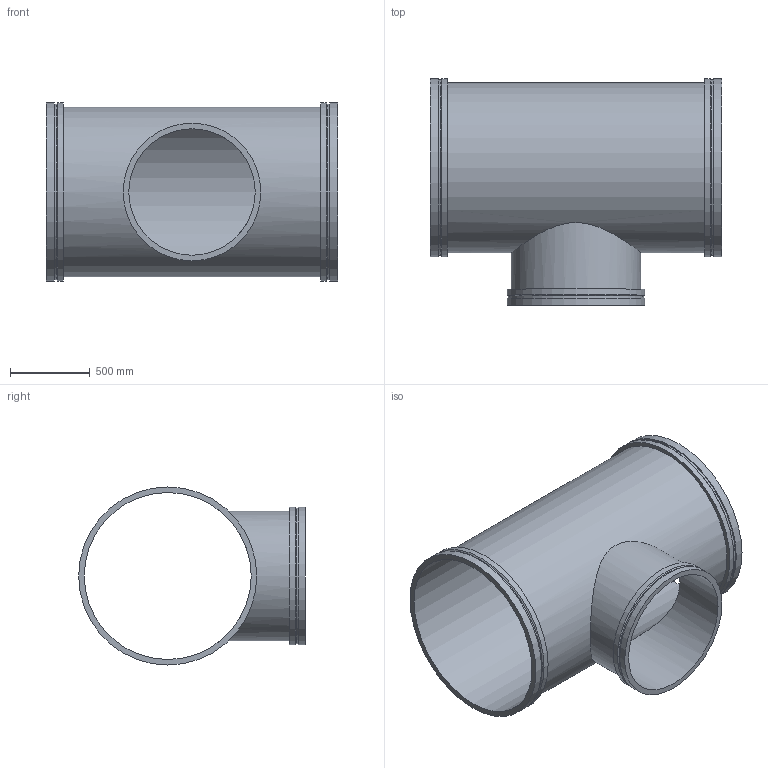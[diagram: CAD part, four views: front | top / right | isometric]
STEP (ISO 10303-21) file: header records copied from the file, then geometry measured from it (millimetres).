
FILE_DESCRIPTION(/* description */ ('VIC REDUCING TEE No W025 VR','CAx-IF Rec.Pracs.---Representation and Presentation of Product Manufacturing Information (PMI)---4.0---2014-10-13'),/* implementation_level */ '2;1');
FILE_NAME(/* name */ 'C:\Users\kkamble\AppData\Roaming\Autodesk\ApplicationPlugins\Back Up\Victaulic_Vic-Ring_Tee Reducing_No W25 VR (AGR)\Victaulic_Vic-Ring_Tee Reducing_No W25 VR (AGR)_42.0x32.0 (1050x800).stp',/* time_stamp */ '2020-09-10T11:56:17+05:00',/* author */ ('mchristi'),/* organization */ ('Victaulic'),/* preprocessor_version */ 'ST-DEVELOPER v17.2',/* originating_system */ 'Autodesk Inventor 2019',/* authorisation */ '');
FILE_SCHEMA (('AP242_MANAGED_MODEL_BASED_3D_ENGINEERING_MIM_LF { 1 0 10303 442 1 1 4 }'));
Length unit declared in the file: inch
Products named in the file (1): W25 VR-42.0x32.0
Bounding box: 1828.8 x 1422.4 x 1117.6 mm (x, y, z)
Volume: 87110122.2 mm3; surface area: 13898580.2 mm2
Topology: 1 solids, 1 shells, 25 faces, 68 edges, 52 vertices
Faces by surface type: cylinder 13, plane 9, cone 3
Full cylindrical faces by diameter (mm): 793.75 x1, 812.8 x1, 849.122 x1, 863.6 x2, 1047.75 x1, 1066.8 x1, 1101.725 x2, 1117.6 x4
Entity records: 1267 total; most frequent: CARTESIAN_POINT 423, DIRECTION 190, ORIENTED_EDGE 136, AXIS2_PLACEMENT_3D 87, EDGE_CURVE 68, VERTEX_POINT 52, CIRCLE 48, EDGE_LOOP 36
